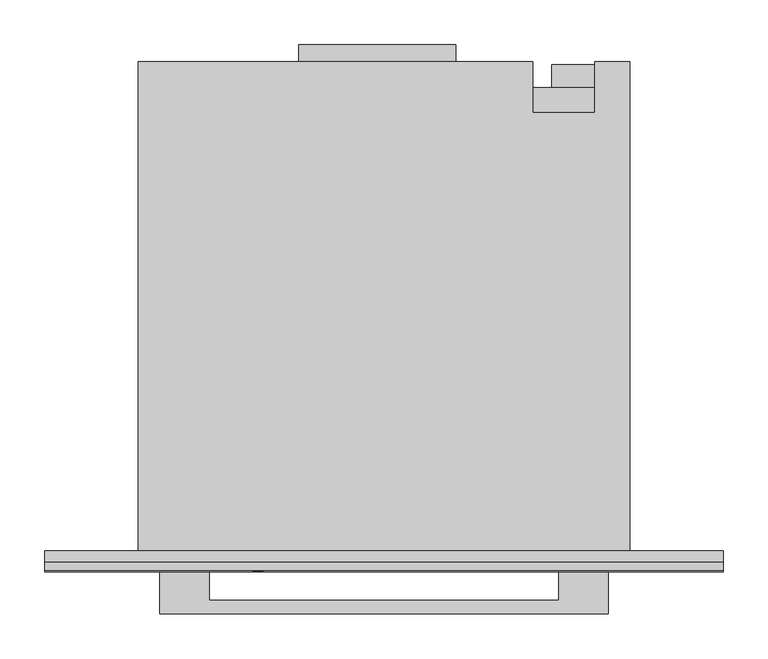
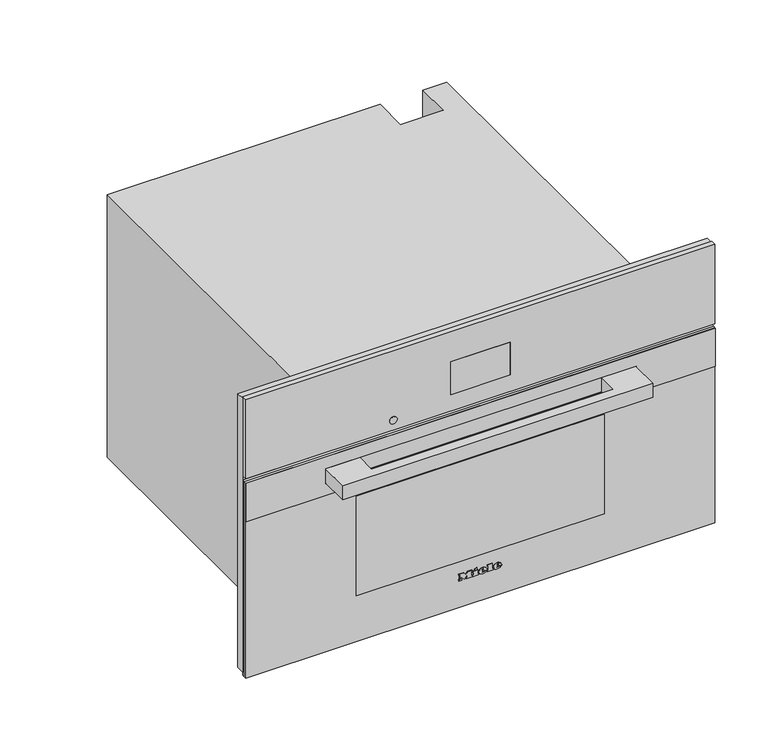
"""IFC4 building model written with IfcOpenShell, lengths in millimetres: proxy geometry, 11876210_USA_DGC7670_EDST-CLST : 23767042_USA_11876210_DGC7670_EDST-CLST."""

from ifc_helpers import new_model, si_unit, point, frame, frame_2d, origin, place, context, project, spatial, polyline, circle_curve, ellipse_curve, trimmed, segment, composite_curve, outline, extrude, faceted_brep, source, transform, mapped, element, save
from ifc_brep_helpers import plane_surface, cylinder_surface, revolved_surface, extruded_surface, advanced_brep


def specialty_equipment_00b2a23c(model_context):
    return source(origin(), model_context, "Body", "SolidModel", [
        faceted_brep([(378.5, -13.0, 476.0), (-378.5, -13.0, 476.0), (-378.5, -13.0, 9.0), (-272.5, -13.0, 9.0), (-272.5, -13.0, 344.0), (272.5, -13.0, 344.0), (272.5, -13.0, 9.0), (378.5, -13.0, 9.0), (378.5, 0.0, 476.0), (378.5, 0.0, 9.0), (-378.5, 0.0, 9.0), (-378.5, 0.0, 476.0), (231.0, 0.0, 58.0), (231.0, 0.0, 286.0), (-231.0, 0.0, 286.0), (-231.0, 0.0, 58.0), (272.5, -5.0, 9.0), (-272.5, -5.0, 9.0), (-272.5, -5.0, 344.0), (272.5, -5.0, 344.0), (231.0, -5.0, 286.0), (231.0, -5.0, 58.0), (-231.0, -5.0, 58.0), (-231.0, -5.0, 286.0)], [[[0, 1, 2, 3, 4, 5, 6, 7]], [[8, 9, 10, 11], [12, 13, 14, 15]], [[1, 0, 8, 11]], [[2, 1, 11, 10]], [[10, 9, 7, 6, 16, 17, 3, 2]], [[0, 7, 9, 8]], [[18, 19, 5, 4]], [[18, 4, 3, 17]], [[5, 19, 16, 6]], [[19, 18, 17, 16], [20, 21, 22, 23]], [[20, 13, 12, 21]], [[21, 12, 15, 22]], [[22, 15, 14, 23]], [[13, 20, 23, 14]]]),
        extrude(outline(polyline([(-95.0, 565.0), (80.0, 565.0), (80.0, 546.0), (-95.0, 546.0), (-95.0, 565.0)])), frame((0.0, 0.0, 260.0), z_axis=(0.0, 0.0, 1.0), x_axis=(1.0, 0.0, 0.0)), (0.0, 0.0, 1.0), 1.0),
        extrude(outline(polyline([(224.8383288, 537.0), (231.1236409, 537.0), (231.1236409, 526.9492425), (229.8571792, 526.9492425), (229.8571792, 535.7409796), (224.8383288, 535.7409796), (224.8383288, 537.0)])), frame((0.0, 0.0, 132.0), z_axis=(0.0, 0.0, 1.0), x_axis=(1.0, 0.0, 0.0)), (0.0, 0.0, 1.0), 1.0),
        extrude(outline(polyline([(233.0, 537.0), (240.3797826, 537.0), (240.3797826, 526.9503529), (233.15422, 526.9503529), (233.15422, 528.220938), (239.1355215, 528.220938), (239.1355215, 531.1975645), (233.4863097, 531.1975645), (233.4863097, 532.449242), (239.1355215, 532.449242), (239.1355215, 535.7448633), (233.0, 535.7448633), (233.0, 537.0)])), frame((0.0, 0.0, 132.0), z_axis=(0.0, 0.0, 1.0), x_axis=(1.0, 0.0, 0.0)), (0.0, 0.0, 1.0), 1.0),
        extrude(outline(composite_curve([segment(trimmed(circle_curve(frame_2d((233.0, 532.0)), 7.5), [point((225.5, 532.0))], [point((240.5, 532.0))], False, "CARTESIAN"), True, "CONTINUOUS"), segment(trimmed(circle_curve(frame_2d((233.0, 532.0)), 7.5), [point((240.5, 532.0))], [point((225.5, 532.0))], False, "CARTESIAN"), True, "CONTINUOUS")], self_intersect=False)), frame((0.0, 0.0, 133.0), z_axis=(0.0, 0.0, 1.0), x_axis=(1.0, 0.0, 0.0)), (0.0, 0.0, 1.0), 30.0),
        extrude(outline(polyline([(266.0, 517.0), (187.0, 517.0), (187.0, 543.0), (266.0, 543.0), (266.0, 517.0)])), frame((0.0, 0.0, 163.0), z_axis=(0.0, 0.0, 1.0), x_axis=(1.0, 0.0, 0.0)), (0.0, 0.0, 1.0), 111.0),
        faceted_brep([(-274.0, 546.0, 0.0), (-274.0, 546.0, 448.0), (166.0, 546.0, 448.0), (166.0, 546.0, 0.0), (235.0, 546.0, 448.0), (274.0, 546.0, 448.0), (274.0, 546.0, 338.0), (235.0, 546.0, 338.0), (274.0, 0.0, 448.0), (-274.0, 0.0, 448.0), (-274.0, 0.0, 0.0), (274.0, 0.0, 0.0), (231.0, 0.0, 286.0), (231.0, 0.0, 58.0), (-231.0, 0.0, 58.0), (-231.0, 0.0, 286.0), (235.0, 489.0, 448.0), (166.0, 489.0, 448.0), (166.0, 517.0, 0.0), (274.0, 517.0, 0.0), (274.0, 517.0, 338.0), (231.0, 411.0, 286.0), (-231.0, 411.0, 286.0), (-231.0, 411.0, 58.0), (231.0, 411.0, 58.0), (235.0, 489.0, 337.0), (166.0, 489.0, 337.0), (166.0, 517.0, 337.0), (235.0, 517.0, 337.0), (235.0, 517.0, 338.0)], [[[0, 1, 2, 3]], [[4, 5, 6, 7]], [[8, 9, 10, 11], [12, 13, 14, 15]], [[9, 8, 5, 4, 16, 17, 2, 1]], [[1, 0, 10, 9]], [[11, 10, 0, 3, 18, 19]], [[8, 11, 19, 20, 6, 5]], [[21, 22, 23, 24]], [[21, 24, 13, 12]], [[24, 23, 14, 13]], [[23, 22, 15, 14]], [[22, 21, 12, 15]], [[16, 25, 26, 17]], [[17, 26, 27, 18, 3, 2]], [[26, 25, 28, 27]], [[25, 16, 4, 7, 29, 28]], [[29, 20, 19, 18, 27, 28]], [[20, 29, 7, 6]]]),
        advanced_brep(
        [(26.2998, -23.0, 52.7018), (26.2998, -23.0, 53.8532), (33.9264, -23.0, 53.8532), (20.6568, -23.0, 53.8532), (23.7918, -23.0, 50.0), (33.7326, -23.0, 52.7018), (30.2898, -23.0, 52.7018), (27.5766, -23.0, 51.425), (26.2998, -23.0, 55.3124), (26.2998, -23.0, 56.555), (28.2492, -23.0, 56.555), (28.2492, -23.0, 55.3124), (26.2998, -22.0, 52.7018), (27.5766, -22.0, 51.425), (30.2898, -22.0, 52.7018), (33.7326, -22.0, 52.7018), (23.7918, -22.0, 50.0), (20.6568, -22.0, 53.8532), (33.9264, -22.0, 53.8532), (26.2998, -22.0, 53.8532), (26.2998, -22.0, 55.3124), (28.2492, -22.0, 55.3124), (28.2492, -22.0, 56.555), (26.2998, -22.0, 56.555)],
        [
            (0, 1),
            (1, 2),
            (2, 3, ellipse_curve(frame((27.2916, -23.0, 53.8532), z_axis=(0.0, -1.0, 0.0), x_axis=(-1.0, 0.0, 0.0)), 6.6348, 5.4834)),
            (3, 4, circle_curve(frame((25.0686622, -23.0, 54.2408), z_axis=(0.0, -1.0, 0.0), x_axis=(0.0, 0.0, -1.0)), 4.4288556)),
            (4, 5, circle_curve(frame((27.1587808, -23.0, 57.2504), z_axis=(0.0, -1.0, 0.0), x_axis=(0.0, 0.0, -1.0)), 7.9940516)),
            (5, 6),
            (6, 7, circle_curve(frame((28.1338588, -23.0, 53.762), z_axis=(0.0, 1.0, 0.0), x_axis=(0.0, 0.0, -1.0)), 2.4025208)),
            (7, 0, circle_curve(frame((27.5766, -23.0, 52.7018), z_axis=(0.0, 1.0, 0.0), x_axis=(0.0, 0.0, -1.0)), 1.2768)),
            (8, 9),
            (9, 10, circle_curve(frame((27.2745, -23.0, 56.555), z_axis=(0.0, 1.0, 0.0), x_axis=(0.0, 0.0, -1.0)), 0.9747)),
            (10, 11),
            (11, 8),
            (12, 13, circle_curve(frame((27.5766, -22.0, 52.7018), z_axis=(0.0, -1.0, 0.0), x_axis=(0.0, 0.0, -1.0)), 1.2768)),
            (13, 14, circle_curve(frame((28.1338588, -22.0, 53.762), z_axis=(0.0, -1.0, 0.0), x_axis=(0.0, 0.0, -1.0)), 2.4025208)),
            (14, 15),
            (15, 16, circle_curve(frame((27.1587808, -22.0, 57.2504), z_axis=(0.0, 1.0, 0.0), x_axis=(0.0, 0.0, -1.0)), 7.9940516)),
            (16, 17, circle_curve(frame((25.0686622, -22.0, 54.2408), z_axis=(0.0, 1.0, 0.0), x_axis=(0.0, 0.0, -1.0)), 4.4288556)),
            (17, 18, ellipse_curve(frame((27.2916, -22.0, 53.8532), z_axis=(0.0, 1.0, 0.0), x_axis=(-1.0, 0.0, 0.0)), 6.6348, 5.4834)),
            (18, 19),
            (19, 12),
            (20, 21),
            (21, 22),
            (22, 23, circle_curve(frame((27.2745, -22.0, 56.555), z_axis=(0.0, -1.0, 0.0), x_axis=(0.0, 0.0, -1.0)), 0.9747)),
            (23, 20),
            (0, 12),
            (19, 1),
            (18, 2),
            (5, 15),
            (14, 6),
            (17, 3),
            (13, 7),
            (16, 4),
            (8, 20),
            (23, 9),
            (22, 10),
            (21, 11),
        ],
        [
            plane_surface(frame((26.2998, -23.0, 53.8532), z_axis=(0.0, -1.0, 0.0), x_axis=(0.0, 0.0, 1.0))),
            plane_surface(frame((26.2998, -22.0, 53.8532), z_axis=(0.0, 1.0, 0.0), x_axis=(0.0, 0.0, -1.0))),
            plane_surface(frame((26.2998, -23.0, 52.7018), z_axis=(1.0, 0.0, 0.0), x_axis=(0.0, 1.0, 0.0))),
            plane_surface(frame((26.2998, -23.0, 53.8532), z_axis=(0.0, 0.0, -1.0), x_axis=(0.0, 1.0, 0.0))),
            plane_surface(frame((33.7326, -23.0, 52.7018), z_axis=(0.0, 0.0, 1.0), x_axis=(0.0, 1.0, 0.0))),
            extruded_surface(trimmed(ellipse_curve(frame((27.2916, -21.0, 53.8532), z_axis=(0.0, -1.0, 0.0), x_axis=(-1.0, 0.0, 0.0)), 6.6348, 5.4834), [point((33.9264, -21.0, 53.8532))], [point((20.6568, -21.0, 53.8532))], True, "CARTESIAN"), (0.0, -1.0, 0.0), 1.0),
            revolved_surface(polyline([(28.1338588, -22.0, 51.3594792), (28.1338588, -23.0, 51.3594792)]), (28.1338588, -22.0, 53.762), (0.0, 1.0, 0.0)),
            revolved_surface(polyline([(27.5766, -22.0, 51.425), (27.5766, -23.0, 51.425)]), (27.5766, -22.0, 52.7018), (0.0, 1.0, 0.0)),
            cylinder_surface(frame((25.0686622, -22.0, 54.2408), z_axis=(0.0, -1.0, 0.0), x_axis=(0.0, 0.0, -1.0)), 4.4288556),
            cylinder_surface(frame((27.1587808, -22.0, 57.2504), z_axis=(0.0, -1.0, 0.0), x_axis=(0.0, 0.0, -1.0)), 7.9940516),
            plane_surface(frame((26.2998, -23.0, 55.3124), z_axis=(1.0, 0.0, 0.0), x_axis=(0.0, 1.0, 0.0))),
            revolved_surface(polyline([(27.2745, -22.0, 55.5803), (27.2745, -23.0, 55.5803)]), (27.2745, -22.0, 56.555), (0.0, 1.0, 0.0)),
            plane_surface(frame((28.2492, -23.0, 56.555), z_axis=(-1.0, 0.0, 0.0), x_axis=(0.0, 1.0, 0.0))),
            plane_surface(frame((28.2492, -23.0, 55.3124), z_axis=(0.0, 0.0, 1.0), x_axis=(0.0, 1.0, 0.0))),
        ],
        [
            (0, [[1, 2, 3, 4, 5, 6, 7, 8], [9, 10, 11, 12]]),
            (1, [[13, 14, 15, 16, 17, 18, 19, 20], [21, 22, 23, 24]]),
            (2, [[-1, 25, -20, 26]]),
            (3, [[-2, -26, -19, 27]]),
            (4, [[-6, 28, -15, 29]]),
            (5, [[-3, -27, -18, 30]]),
            (6, [[-7, -29, -14, 31]]),
            (7, [[-8, -31, -13, -25]]),
            (8, [[-4, -30, -17, 32]]),
            (9, [[-5, -32, -16, -28]]),
            (10, [[-9, 33, -24, 34]]),
            (11, [[-10, -34, -23, 35]]),
            (12, [[-11, -35, -22, 36]]),
            (13, [[-12, -36, -21, -33]]),
        ],
    ),
        advanced_brep(
        [(2.508, -23.0, 52.7018), (2.508, -23.0, 53.8532), (10.1346, -23.0, 53.8532), (-3.135, -23.0, 53.8532), (0.0, -23.0, 50.0), (9.9408, -23.0, 52.7018), (6.498, -23.0, 52.7018), (3.7848, -23.0, 51.425), (2.508, -23.0, 55.3124), (2.508, -23.0, 56.555), (4.4574, -23.0, 56.555), (4.4574, -23.0, 55.3124), (2.508, -22.0, 52.7018), (3.7848, -22.0, 51.425), (6.498, -22.0, 52.7018), (9.9408, -22.0, 52.7018), (0.0, -22.0, 50.0), (-3.135, -22.0, 53.8532), (10.1346, -22.0, 53.8532), (2.508, -22.0, 53.8532), (2.508, -22.0, 55.3124), (4.4574, -22.0, 55.3124), (4.4574, -22.0, 56.555), (2.508, -22.0, 56.555)],
        [
            (0, 1),
            (1, 2),
            (2, 3, ellipse_curve(frame((3.4998, -23.0, 53.8532), z_axis=(0.0, -1.0, 0.0), x_axis=(-1.0, 0.0, 0.0)), 6.6348, 5.4834)),
            (3, 4, circle_curve(frame((1.2768622, -23.0, 54.2408), z_axis=(0.0, -1.0, 0.0), x_axis=(0.0, 0.0, -1.0)), 4.4288556)),
            (4, 5, circle_curve(frame((3.3669808, -23.0, 57.2504), z_axis=(0.0, -1.0, 0.0), x_axis=(0.0, 0.0, -1.0)), 7.9940516)),
            (5, 6),
            (6, 7, circle_curve(frame((4.3420588, -23.0, 53.762), z_axis=(0.0, 1.0, 0.0), x_axis=(0.0, 0.0, -1.0)), 2.4025208)),
            (7, 0, circle_curve(frame((3.7848, -23.0, 52.7018), z_axis=(0.0, 1.0, 0.0), x_axis=(0.0, 0.0, -1.0)), 1.2768)),
            (8, 9),
            (9, 10, circle_curve(frame((3.4827, -23.0, 56.555), z_axis=(0.0, 1.0, 0.0), x_axis=(0.0, 0.0, -1.0)), 0.9747)),
            (10, 11),
            (11, 8),
            (12, 13, circle_curve(frame((3.7848, -22.0, 52.7018), z_axis=(0.0, -1.0, 0.0), x_axis=(0.0, 0.0, -1.0)), 1.2768)),
            (13, 14, circle_curve(frame((4.3420588, -22.0, 53.762), z_axis=(0.0, -1.0, 0.0), x_axis=(0.0, 0.0, -1.0)), 2.4025208)),
            (14, 15),
            (15, 16, circle_curve(frame((3.3669808, -22.0, 57.2504), z_axis=(0.0, 1.0, 0.0), x_axis=(0.0, 0.0, -1.0)), 7.9940516)),
            (16, 17, circle_curve(frame((1.2768622, -22.0, 54.2408), z_axis=(0.0, 1.0, 0.0), x_axis=(0.0, 0.0, -1.0)), 4.4288556)),
            (17, 18, ellipse_curve(frame((3.4998, -22.0, 53.8532), z_axis=(0.0, 1.0, 0.0), x_axis=(-1.0, 0.0, 0.0)), 6.6348, 5.4834)),
            (18, 19),
            (19, 12),
            (20, 21),
            (21, 22),
            (22, 23, circle_curve(frame((3.4827, -22.0, 56.555), z_axis=(0.0, -1.0, 0.0), x_axis=(0.0, 0.0, -1.0)), 0.9747)),
            (23, 20),
            (0, 12),
            (19, 1),
            (18, 2),
            (5, 15),
            (14, 6),
            (17, 3),
            (13, 7),
            (16, 4),
            (8, 20),
            (23, 9),
            (22, 10),
            (21, 11),
        ],
        [
            plane_surface(frame((2.508, -23.0, 53.8532), z_axis=(0.0, -1.0, 0.0), x_axis=(0.0, 0.0, 1.0))),
            plane_surface(frame((2.508, -22.0, 53.8532), z_axis=(0.0, 1.0, 0.0), x_axis=(0.0, 0.0, -1.0))),
            plane_surface(frame((2.508, -23.0, 52.7018), z_axis=(1.0, 0.0, 0.0), x_axis=(0.0, 1.0, 0.0))),
            plane_surface(frame((2.508, -23.0, 53.8532), z_axis=(0.0, 0.0, -1.0), x_axis=(0.0, 1.0, 0.0))),
            plane_surface(frame((9.9408, -23.0, 52.7018), z_axis=(0.0, 0.0, 1.0), x_axis=(0.0, 1.0, 0.0))),
            extruded_surface(trimmed(ellipse_curve(frame((3.4998, -21.0, 53.8532), z_axis=(0.0, -1.0, 0.0), x_axis=(-1.0, 0.0, 0.0)), 6.6348, 5.4834), [point((10.1346, -21.0, 53.8532))], [point((-3.135, -21.0, 53.8532))], True, "CARTESIAN"), (0.0, -1.0, 0.0), 1.0),
            revolved_surface(polyline([(4.3420588, -22.0, 51.3594792), (4.3420588, -23.0, 51.3594792)]), (4.3420588, -22.0, 53.762), (0.0, 1.0, 0.0)),
            revolved_surface(polyline([(3.7848, -22.0, 51.425), (3.7848, -23.0, 51.425)]), (3.7848, -22.0, 52.7018), (0.0, 1.0, 0.0)),
            cylinder_surface(frame((1.2768622, -22.0, 54.2408), z_axis=(0.0, -1.0, 0.0), x_axis=(0.0, 0.0, -1.0)), 4.4288556),
            cylinder_surface(frame((3.3669808, -22.0, 57.2504), z_axis=(0.0, -1.0, 0.0), x_axis=(0.0, 0.0, -1.0)), 7.9940516),
            plane_surface(frame((2.508, -23.0, 55.3124), z_axis=(1.0, 0.0, 0.0), x_axis=(0.0, 1.0, 0.0))),
            revolved_surface(polyline([(3.4827, -22.0, 55.5803), (3.4827, -23.0, 55.5803)]), (3.4827, -22.0, 56.555), (0.0, 1.0, 0.0)),
            plane_surface(frame((4.4574, -23.0, 56.555), z_axis=(-1.0, 0.0, 0.0), x_axis=(0.0, 1.0, 0.0))),
            plane_surface(frame((4.4574, -23.0, 55.3124), z_axis=(0.0, 0.0, 1.0), x_axis=(0.0, 1.0, 0.0))),
        ],
        [
            (0, [[1, 2, 3, 4, 5, 6, 7, 8], [9, 10, 11, 12]]),
            (1, [[13, 14, 15, 16, 17, 18, 19, 20], [21, 22, 23, 24]]),
            (2, [[-1, 25, -20, 26]]),
            (3, [[-2, -26, -19, 27]]),
            (4, [[-6, 28, -15, 29]]),
            (5, [[-3, -27, -18, 30]]),
            (6, [[-7, -29, -14, 31]]),
            (7, [[-8, -31, -13, -25]]),
            (8, [[-4, -30, -17, 32]]),
            (9, [[-5, -32, -16, -28]]),
            (10, [[-9, 33, -24, 34]]),
            (11, [[-10, -34, -23, 35]]),
            (12, [[-11, -35, -22, 36]]),
            (13, [[-12, -36, -21, -33]]),
        ],
    ),
        extrude(outline(polyline([(60.7274, -9.9522), (58.8806, -9.0858), (60.6818, -5.2212), (62.5286, -6.0762), (60.7274, -9.9522)])), frame((0.0, -23.0, 0.0), z_axis=(0.0, 1.0, 0.0), x_axis=(0.0, 0.0, 1.0)), (0.0, 0.0, 1.0), 1.0),
        extrude(outline(polyline([(58.6298, -12.768), (56.5892, -12.768), (56.5892, -11.4114), (51.9152, -11.4114), (51.9152, -12.768), (50.0, -12.768), (50.0, -3.7734), (51.9152, -3.7734), (51.9152, -5.0958), (58.6298, -5.0958), (58.6298, -12.768)])), frame((0.0, -23.0, 0.0), z_axis=(0.0, 1.0, 0.0), x_axis=(0.0, 0.0, 1.0)), (0.0, 0.0, 1.0), 1.0),
        extrude(outline(polyline([(59.5418, 10.773), (59.5418, 12.141), (51.9152, 12.141), (51.9152, 10.773), (50.0, 10.773), (50.0, 20.0184), (51.9152, 20.0184), (51.9152, 18.6162), (61.4, 18.6162), (61.4, 10.773), (59.5418, 10.773)])), frame((0.0, -23.0, 0.0), z_axis=(0.0, 1.0, 0.0), x_axis=(0.0, 0.0, 1.0)), (0.0, 0.0, 1.0), 1.0),
        extrude(outline(polyline([(59.5418, -35.4882), (59.5418, -34.1088), (51.9152, -34.1088), (51.9152, -35.4882), (50.0, -35.4882), (50.0, -30.4722), (51.9152, -30.4722), (51.9152, -31.8402), (56.7429247, -31.8402), (50.0, -26.7444), (56.9402223, -21.6258), (51.9152, -21.6258), (51.9152, -23.028), (50.0, -23.028), (50.0, -13.9308), (51.9152, -13.9308), (51.9152, -15.3786), (59.5418, -15.3786), (59.5418, -13.9308), (61.4, -13.9308), (61.4, -20.8734), (57.125, -24.2022), (61.4, -27.5424), (61.4, -35.4882), (59.5418, -35.4882)])), frame((0.0, -23.0, 0.0), z_axis=(0.0, 1.0, 0.0), x_axis=(0.0, 0.0, 1.0)), (0.0, 0.0, 1.0), 1.0),
        extrude(outline(composite_curve([segment(trimmed(circle_curve(frame_2d((361.0, -140.5745637)), 6.0), [point((361.0, -146.5745637))], [point((361.0, -134.5745637))], False, "CARTESIAN"), True, "CONTINUOUS"), segment(trimmed(circle_curve(frame_2d((361.0, -140.5745637)), 6.0), [point((361.0, -134.5745637))], [point((361.0, -146.5745637))], False, "CARTESIAN"), True, "CONTINUOUS")], self_intersect=False)), frame((0.0, -22.5, 0.0), z_axis=(0.0, 1.0, 0.0), x_axis=(0.0, 0.0, 1.0)), (0.0, 0.0, 1.0), 1.0),
        extrude(outline(polyline([(-48.0, -21.0), (48.0, -21.0), (48.0, -22.0), (-48.0, -22.0), (-48.0, -21.0)])), frame((0.0, 0.0, 372.0), z_axis=(0.0, 0.0, 1.0), x_axis=(1.0, 0.0, 0.0)), (0.0, 0.0, 1.0), 56.0),
        faceted_brep([(378.5, -22.0, 479.0), (-378.5, -22.0, 479.0), (-378.5, -22.0, 344.0), (378.5, -22.0, 344.0), (48.0, -22.0, 428.0), (48.0, -22.0, 372.0), (-48.0, -22.0, 372.0), (-48.0, -22.0, 428.0), (378.5, -13.0, 479.0), (378.5, -13.0, 344.0), (-378.5, -13.0, 344.0), (-378.5, -13.0, 479.0), (48.0, -21.0, 428.0), (-48.0, -21.0, 428.0), (-48.0, -21.0, 372.0), (48.0, -21.0, 372.0)], [[[0, 1, 2, 3], [4, 5, 6, 7]], [[8, 9, 10, 11]], [[1, 0, 8, 11]], [[2, 1, 11, 10]], [[3, 2, 10, 9]], [[0, 3, 9, 8]], [[12, 13, 14, 15]], [[12, 15, 5, 4]], [[15, 14, 6, 5]], [[14, 13, 7, 6]], [[13, 12, 4, 7]]]),
        extrude(outline(polyline([(200.0, -22.0), (-200.0, -22.0), (-200.0, -18.0), (200.0, -18.0), (200.0, -22.0)])), frame((0.0, 0.0, 82.0), z_axis=(0.0, 0.0, 1.0), x_axis=(1.0, 0.0, 0.0)), (0.0, 0.0, 1.0), 170.0),
        extrude(outline(polyline([(337.0, 378.5), (337.0, -378.5), (4.0, -378.5), (4.0, 378.5), (337.0, 378.5)]), holes=[polyline([(252.0, -200.0), (252.0, 200.0), (82.0, 200.0), (82.0, -200.0), (252.0, -200.0)])]), frame((0.0, -22.0, 0.0), z_axis=(0.0, 1.0, 0.0), x_axis=(0.0, 0.0, 1.0)), (0.0, 0.0, 1.0), 4.0),
        extrude(outline(polyline([(337.0, 378.5), (337.0, -378.5), (272.0, -378.5), (272.0, 378.5), (337.0, 378.5)]), holes=[polyline([(317.0, -250.5), (317.0, 250.5), (292.0, 250.5), (292.0, -250.5), (317.0, -250.5)])]), frame((0.0, -23.3, 0.0), z_axis=(0.0, 1.0, 0.0), x_axis=(0.0, 0.0, 1.0)), (0.0, 0.0, 1.0), 1.3),
        extrude(outline(polyline([(-250.0, -70.3), (-250.0, -22.0), (-195.0, -22.0), (-195.0, -55.3), (195.0, -55.3), (195.0, -22.0), (250.0, -22.0), (250.0, -70.3), (-250.0, -70.3)])), frame((0.0, 0.0, 292.5), z_axis=(0.0, 0.0, 1.0), x_axis=(1.0, 0.0, 0.0)), (0.0, 0.0, 1.0), 24.0),
        extrude(outline(polyline([(378.5, -18.0), (-378.5, -18.0), (-378.5, -13.0), (378.5, -13.0), (378.5, -18.0)])), frame((0.0, 0.0, 4.0), z_axis=(0.0, 0.0, 1.0), x_axis=(1.0, 0.0, 0.0)), (0.0, 0.0, 1.0), 333.0),
    ])


if __name__ == "__main__":
    model = new_model("IFC4")
    model_context = context("Model", 3, world=origin())
    ifc_project = project(units=[si_unit("LENGTHUNIT", "METRE", prefix="MILLI")], contexts=[model_context])
    site = spatial("IfcSite", under=ifc_project)
    building = spatial("IfcBuilding", under=site)
    placement = place(None, origin())
    specialty_equipment_shape = specialty_equipment_00b2a23c(model_context)
    element("IfcBuildingElementProxy", 1, Name="11876210_USA_DGC7670_EDST-CLST : 23767042_USA_11876210_DGC7670_EDST-CLST", ObjectType="11876210_USA_DGC7670_EDST-CLST : 23767042_USA_11876210_DGC7670_EDST-CLST", at=placement, inside=building, context=model_context, shape_type="MappedRepresentation", body=[
        mapped(specialty_equipment_shape, transform((0.0, 0.0, 0.0), x_axis=(1.0, 0.0, 0.0), y_axis=(0.0, 1.0, 0.0), z_axis=(0.0, 0.0, 1.0))),
    ])
    save(model, "model.ifc")
